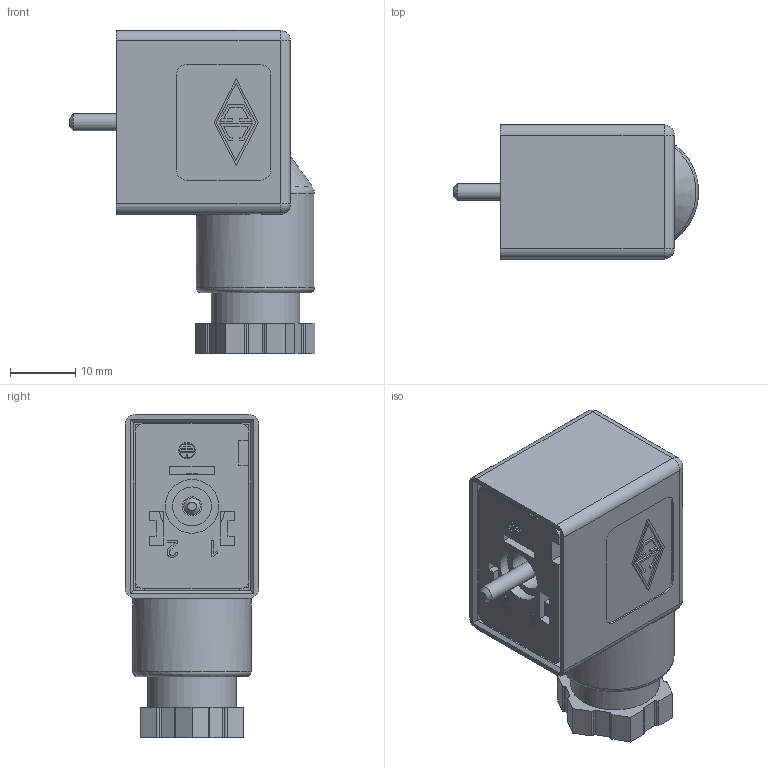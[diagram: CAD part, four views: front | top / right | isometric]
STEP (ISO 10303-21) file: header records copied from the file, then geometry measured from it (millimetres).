
FILE_DESCRIPTION((''),'2;1');
FILE_NAME('C:\TurckZip\VBS_2-AW.stp','2009-08-25T14:54:47',('IKOROL'),(''),'Autodesk Inventor 2009','Autodesk Inventor 2009','');
FILE_SCHEMA(('CONFIG_CONTROL_DESIGN'));
Length unit declared in the file: millimetre
Products named in the file (1): Part13
Bounding box: 37.8 x 20.57 x 49.66 mm (x, y, z)
Volume: 13973.2 mm3; surface area: 12613 mm2
Topology: 2 solids, 2 shells, 304 faces, 777 edges, 510 vertices
Faces by surface type: plane 215, cylinder 63, bspline 12, cone 7, sphere 4, torus 3
Full cylindrical faces by diameter (mm): 2.286 x1, 2.54 x1, 2.591 x1, 2.946 x1, 4.216 x1, 5.969 x1, 6.35 x1, 6.502 x1, 6.909 x1, 8.255 x1, 9.601 x1, 9.957 x1, 10.16 x1, 12.7 x1, 13.259 x1, 13.614 x1, 14.53 x1, 18.186 x1
Entity records: 9308 total; most frequent: CARTESIAN_POINT 2022, ORIENTED_EDGE 1490, DIRECTION 1434, EDGE_CURVE 745, VECTOR 556, LINE 556, VERTEX_POINT 505, AXIS2_PLACEMENT_3D 439
